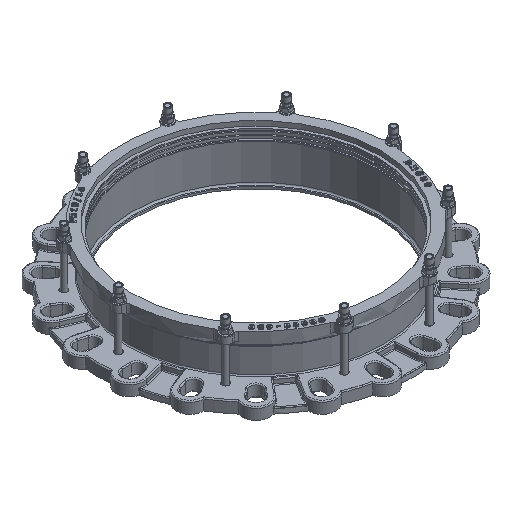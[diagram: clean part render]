
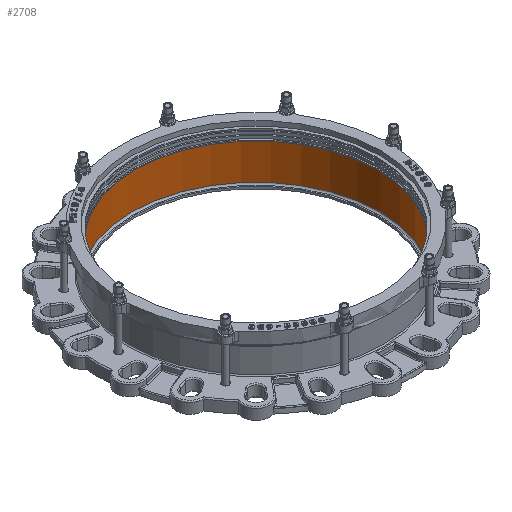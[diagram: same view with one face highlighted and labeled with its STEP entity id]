
A CAD part, isometric view. The second image highlights one B-rep face of the part: STEP entity #2708.
In plain terms, the highlighted cylindrical face has radius 315 mm (diameter 630 mm), a full revolution.
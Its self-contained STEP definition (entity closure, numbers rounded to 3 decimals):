
#2708=ADVANCED_FACE('',(#40247,#40249),#40251,.F.);
#40247=FACE_OUTER_BOUND('',#40248,.T.);
#40248=EDGE_LOOP('',(#49084));
#40249=FACE_OUTER_BOUND('',#40250,.T.);
#40250=EDGE_LOOP('',(#49085));
#40251=CYLINDRICAL_SURFACE('',#40252,315.);
#40252=AXIS2_PLACEMENT_3D('',#40253,#40254,#40255);
#40253=CARTESIAN_POINT('',(0.,0.,5.));
#40254=DIRECTION('',(0.,0.,1.));
#40255=DIRECTION('',(-1.,0.,0.));
#49084=ORIENTED_EDGE('',*,*,#56079,.F.);
#49085=ORIENTED_EDGE('',*,*,#56080,.T.);
#56079=EDGE_CURVE('',#61169,#61169,#61170,.T.);
#56080=EDGE_CURVE('',#61171,#61171,#61172,.F.);
#61169=VERTEX_POINT('',#81730);
#61170=CIRCLE('',#81731,315.);
#61171=VERTEX_POINT('',#81735);
#61172=CIRCLE('',#81736,315.);
#81730=CARTESIAN_POINT('',(0.,315.,102.));
#81731=AXIS2_PLACEMENT_3D('',#81732,#81733,#81734);
#81732=CARTESIAN_POINT('',(0.,0.,102.));
#81733=DIRECTION('',(0.,0.,-1.));
#81734=DIRECTION('',(0.,1.,0.));
#81735=CARTESIAN_POINT('',(0.,315.,9.));
#81736=AXIS2_PLACEMENT_3D('',#81737,#81738,#81739);
#81737=CARTESIAN_POINT('',(0.,0.,9.));
#81738=DIRECTION('',(0.,0.,1.));
#81739=DIRECTION('',(0.,1.,0.));
